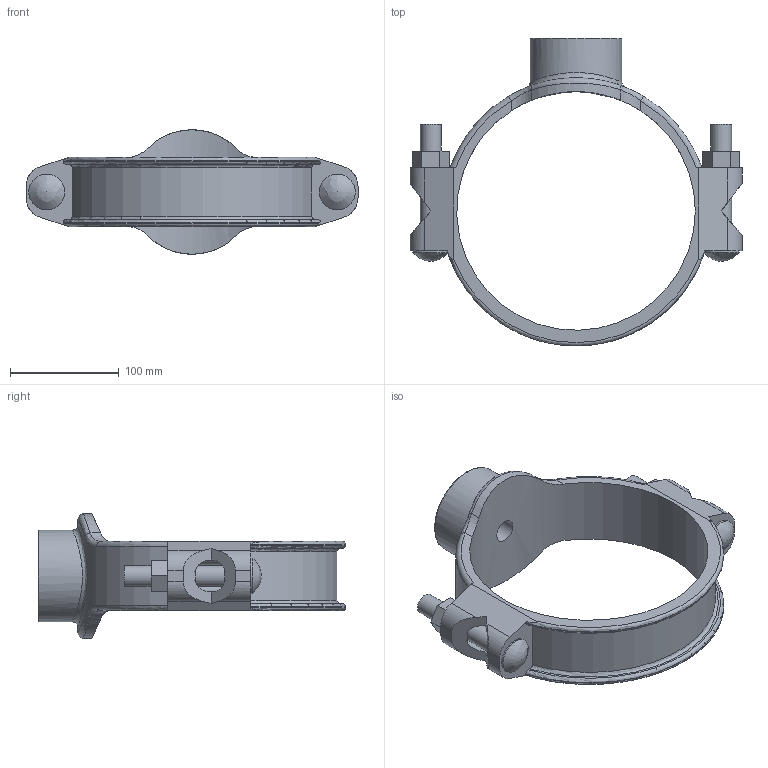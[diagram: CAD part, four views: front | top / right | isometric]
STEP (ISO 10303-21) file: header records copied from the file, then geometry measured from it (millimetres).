
FILE_DESCRIPTION(/* description */ ('VIC SS MECHANICAL T BRANCH OUTLET STYLE 422 (BSPP)','CAx-IF Rec.Pracs.---Representation and Presentation of Product Manufacturing Information (PMI)---4.0---2014-10-13'),/* implementation_level */ '2;1');
FILE_NAME(/* name */ 'C:\Files for Export\422\STEP\Victaulic_SS-OGS_Mech-Tee Out_Style 422 (BSPP)\Victaulic_SS-OGS_Mech-Tee Out_Style 422 (BSPP)_08.0x0.75 (200x20).stp',/* time_stamp */ '2023-03-28T14:24:59+02:00',/* author */ ('jheald'),/* organization */ ('Victaulic'),/* preprocessor_version */ 'ST-DEVELOPER v18.1',/* originating_system */ 'Autodesk Inventor 2020',/* authorisation */ '');
FILE_SCHEMA (('AP242_MANAGED_MODEL_BASED_3D_ENGINEERING_MIM_LF { 1 0 10303 442 1 1 4 }'));
Length unit declared in the file: inch
Products named in the file (1): 422-08.0x0.75
Bounding box: 304.8 x 282.56 x 114.3 mm (x, y, z)
Volume: 939547.2 mm3; surface area: 172154.4 mm2
Topology: 1 solids, 1 shells, 100 faces, 290 edges, 192 vertices
Faces by surface type: plane 48, cylinder 32, torus 11, bspline 9
Full cylindrical faces by diameter (mm): 19.05 x4, 20.93 x1, 26.67 x1, 33.02 x2, 84.074 x1, 219.075 x1
Entity records: 4332 total; most frequent: CARTESIAN_POINT 1472, ORIENTED_EDGE 576, DIRECTION 558, EDGE_CURVE 288, AXIS2_PLACEMENT_3D 206, VERTEX_POINT 192, LINE 146, VECTOR 146
